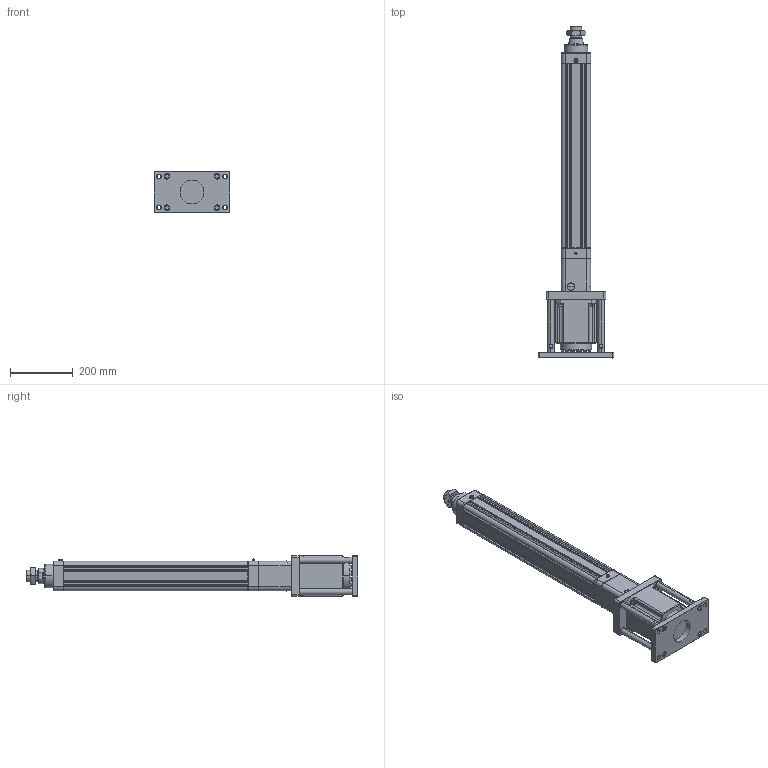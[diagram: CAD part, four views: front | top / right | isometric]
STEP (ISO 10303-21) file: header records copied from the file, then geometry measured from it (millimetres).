
FILE_DESCRIPTION((''),'2;1');
FILE_NAME('HE80-D-P_ASM','2020-04-23T',('ASUS20200'),(''),'CREO PARAMETRIC BY PTC INC, 2014190','CREO PARAMETRIC BY PTC INC, 2014190','');
FILE_SCHEMA(('CONFIG_CONTROL_DESIGN'));
Length unit declared in the file: millimetre
Products named in the file (25): HE80-D-P-001-X1; HE80-D-P-002-X1; HE80-D-P-003-X1; 30304J; YZ-M6X1; SLM-01; JDB506030; HE80-100-D-P-X1_ASM; HE80-D-009-X1; HE80-D-010-X1-130N; M10X110; SKT-20; M8X20; 130ST-M10010; JX6X6X40; TD-8; M8X40; HE80-D-P-005-X1; HE80-D-P-004-X1; HE80-D-P-008-X1; LGLM-M10-25; HE80-FB-LG; F-HE80FB; M10X30; HE80-D-P_ASM
Assembly tree (51 placements, depth 3):
  HE80-D-P_ASM
    HE80-100-D-P-X1_ASM
      HE80-D-P-001-X1
      HE80-D-P-002-X1
      HE80-D-P-003-X1
      30304J  x2
      YZ-M6X1
      SLM-01
      JDB506030
    HE80-D-009-X1
    HE80-D-010-X1-130N
    M10X110  x4
    SKT-20  x2
    M8X20  x4
    130ST-M10010
    JX6X6X40
    TD-8  x4
    M8X40  x4
    HE80-D-P-005-X1
    HE80-D-P-004-X1
    HE80-D-P-008-X1
    LGLM-M10-25  x4
    HE80-FB-LG  x4
    F-HE80FB
    M10X30  x8
Bounding box: 240 x 1057 x 130.01 mm (x, y, z)
Volume: 6296255.2 mm3; surface area: 1327253.5 mm2
Topology: 50 solids, 81 shells, 2508 faces, 5752 edges, 3442 vertices
Faces by surface type: plane 884, cone 768, cylinder 696, torus 126, sphere 30, bspline 4
Entity records: 54584 total; most frequent: CARTESIAN_POINT 10311, DIRECTION 9835, ORIENTED_EDGE 8530, EDGE_CURVE 4312, AXIS2_PLACEMENT_3D 3791, VERTEX_POINT 2578, VECTOR 2253, LINE 2253
